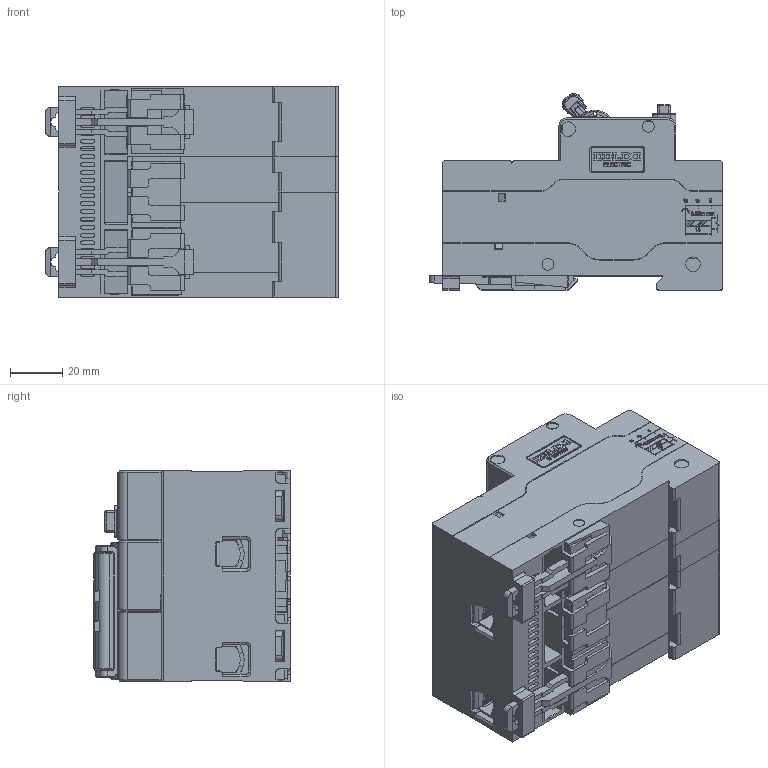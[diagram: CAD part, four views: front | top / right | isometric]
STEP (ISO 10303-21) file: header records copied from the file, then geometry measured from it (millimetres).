
FILE_DESCRIPTION((''),'2;1');
FILE_NAME('2253007000_ASM_SW0001','2019-07-26T',('xiao.wang'),(''),'PRO/ENGINEER BY PARAMETRIC TECHNOLOGY CORPORATION, 2015440','PRO/ENGINEER BY PARAMETRIC TECHNOLOGY CORPORATION, 2015440','');
FILE_SCHEMA(('CONFIG_CONTROL_DESIGN'));
Products named in the file (1): 2253007000_ASM_SW0001
Bounding box: 112.1 x 75.29 x 80.4 mm (x, y, z)
Volume: 339668 mm3; surface area: 147240.4 mm2
Topology: 1 solids, 11 shells, 6342 faces, 18054 edges, 11780 vertices
Faces by surface type: plane 4458, cylinder 1056, extrusion 543, cone 122, torus 87, bspline 51, sphere 25
Entity records: 211382 total; most frequent: CARTESIAN_POINT 46647, ORIENTED_EDGE 36058, DIRECTION 31318, EDGE_CURVE 18029, VECTOR 14488, LINE 13945, VERTEX_POINT 11780, AXIS2_PLACEMENT_3D 8415
